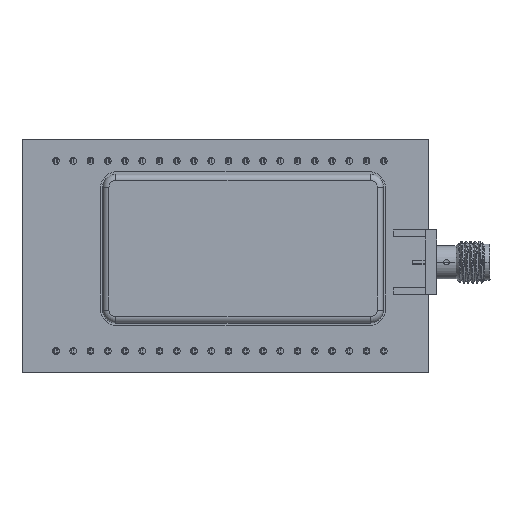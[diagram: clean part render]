
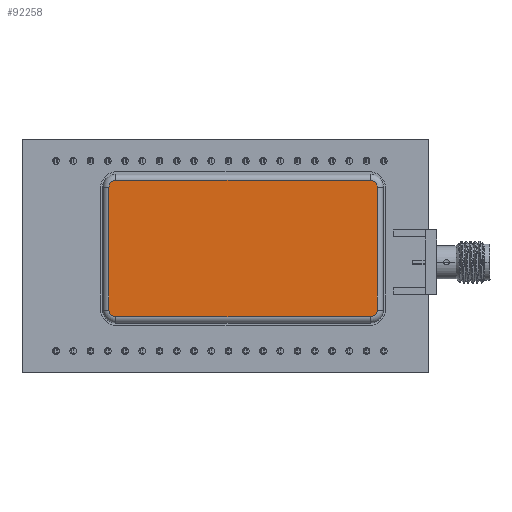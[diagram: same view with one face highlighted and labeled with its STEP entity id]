
A CAD part, top view. The second image highlights one B-rep face of the part: STEP entity #92258.
In plain terms, the highlighted planar face has unit normal (0, 0, 1) as drawn and (0, 1, 0) by its records, which use the part's own axes.
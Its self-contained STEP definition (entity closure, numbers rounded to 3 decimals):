
#92258 = ADVANCED_FACE('',(#92259),#92329,.F.);
#92259 = FACE_BOUND('',#92260,.T.);
#92260 = EDGE_LOOP('',(#92261,#92272,#92280,#92289,#92297,#92306,#92314,
    #92323));
#92261 = ORIENTED_EDGE('',*,*,#92262,.T.);
#92262 = EDGE_CURVE('',#92263,#92265,#92267,.T.);
#92263 = VERTEX_POINT('',#92264);
#92264 = CARTESIAN_POINT('',(10.05,0.2,-18.75));
#92265 = VERTEX_POINT('',#92266);
#92266 = CARTESIAN_POINT('',(9.05,0.2,-19.75));
#92267 = CIRCLE('',#92268,1.);
#92268 = AXIS2_PLACEMENT_3D('',#92269,#92270,#92271);
#92269 = CARTESIAN_POINT('',(9.05,0.2,-18.75));
#92270 = DIRECTION('',(0.,1.,0.));
#92271 = DIRECTION('',(1.,0.,0.));
#92272 = ORIENTED_EDGE('',*,*,#92273,.T.);
#92273 = EDGE_CURVE('',#92265,#92274,#92276,.T.);
#92274 = VERTEX_POINT('',#92275);
#92275 = CARTESIAN_POINT('',(-9.05,0.2,-19.75));
#92276 = LINE('',#92277,#92278);
#92277 = CARTESIAN_POINT('',(9.05,0.2,-19.75));
#92278 = VECTOR('',#92279,1.);
#92279 = DIRECTION('',(-1.,0.,0.));
#92280 = ORIENTED_EDGE('',*,*,#92281,.F.);
#92281 = EDGE_CURVE('',#92282,#92274,#92284,.T.);
#92282 = VERTEX_POINT('',#92283);
#92283 = CARTESIAN_POINT('',(-10.05,0.2,-18.75));
#92284 = CIRCLE('',#92285,1.);
#92285 = AXIS2_PLACEMENT_3D('',#92286,#92287,#92288);
#92286 = CARTESIAN_POINT('',(-9.05,0.2,-18.75));
#92287 = DIRECTION('',(0.,-1.,0.));
#92288 = DIRECTION('',(-1.,0.,0.));
#92289 = ORIENTED_EDGE('',*,*,#92290,.F.);
#92290 = EDGE_CURVE('',#92291,#92282,#92293,.T.);
#92291 = VERTEX_POINT('',#92292);
#92292 = CARTESIAN_POINT('',(-10.05,0.2,18.75));
#92293 = LINE('',#92294,#92295);
#92294 = CARTESIAN_POINT('',(-10.05,0.2,0.));
#92295 = VECTOR('',#92296,1.);
#92296 = DIRECTION('',(0.,0.,-1.));
#92297 = ORIENTED_EDGE('',*,*,#92298,.T.);
#92298 = EDGE_CURVE('',#92291,#92299,#92301,.T.);
#92299 = VERTEX_POINT('',#92300);
#92300 = CARTESIAN_POINT('',(-9.05,0.2,19.75));
#92301 = CIRCLE('',#92302,1.);
#92302 = AXIS2_PLACEMENT_3D('',#92303,#92304,#92305);
#92303 = CARTESIAN_POINT('',(-9.05,0.2,18.75));
#92304 = DIRECTION('',(0.,1.,0.));
#92305 = DIRECTION('',(-1.,0.,0.));
#92306 = ORIENTED_EDGE('',*,*,#92307,.F.);
#92307 = EDGE_CURVE('',#92308,#92299,#92310,.T.);
#92308 = VERTEX_POINT('',#92309);
#92309 = CARTESIAN_POINT('',(9.05,0.2,19.75));
#92310 = LINE('',#92311,#92312);
#92311 = CARTESIAN_POINT('',(9.05,0.2,19.75));
#92312 = VECTOR('',#92313,1.);
#92313 = DIRECTION('',(-1.,0.,0.));
#92314 = ORIENTED_EDGE('',*,*,#92315,.F.);
#92315 = EDGE_CURVE('',#92316,#92308,#92318,.T.);
#92316 = VERTEX_POINT('',#92317);
#92317 = CARTESIAN_POINT('',(10.05,0.2,18.75));
#92318 = CIRCLE('',#92319,1.);
#92319 = AXIS2_PLACEMENT_3D('',#92320,#92321,#92322);
#92320 = CARTESIAN_POINT('',(9.05,0.2,18.75));
#92321 = DIRECTION('',(0.,-1.,0.));
#92322 = DIRECTION('',(1.,0.,0.));
#92323 = ORIENTED_EDGE('',*,*,#92324,.T.);
#92324 = EDGE_CURVE('',#92316,#92263,#92325,.T.);
#92325 = LINE('',#92326,#92327);
#92326 = CARTESIAN_POINT('',(10.05,0.2,0.));
#92327 = VECTOR('',#92328,1.);
#92328 = DIRECTION('',(0.,0.,-1.));
#92329 = PLANE('',#92330);
#92330 = AXIS2_PLACEMENT_3D('',#92331,#92332,#92333);
#92331 = CARTESIAN_POINT('',(9.05,0.2,-18.75));
#92332 = DIRECTION('',(0.,-1.,0.));
#92333 = DIRECTION('',(0.,0.,-1.));
